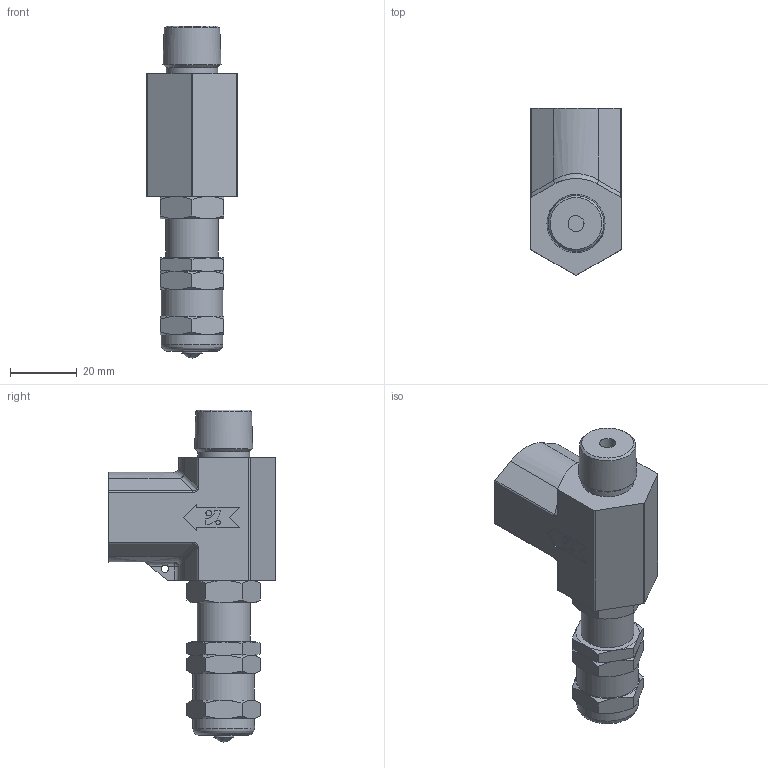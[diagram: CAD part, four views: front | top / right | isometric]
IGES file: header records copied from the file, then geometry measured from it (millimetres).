
Global section: file name: SRV-M6N-F6N; native system: Autodesk Inventor 2016; preprocessor: unknown; author: 이승민,,11,0; organization: 20161227.091658; date: 20161229.080839; units: millimetre
Bounding box: 27 x 50.01 x 99.5 mm (x, y, z)
Volume: 44605.2 mm3; surface area: 15881.4 mm2
Topology: 5 solids, 5 shells, 194 faces, 469 edges, 301 vertices
Faces by surface type: bspline 194
